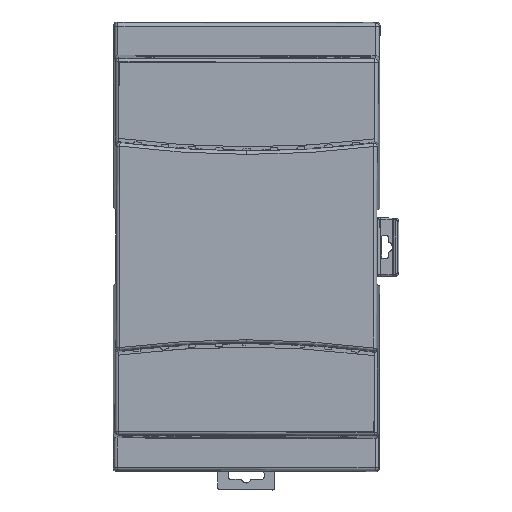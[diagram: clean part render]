
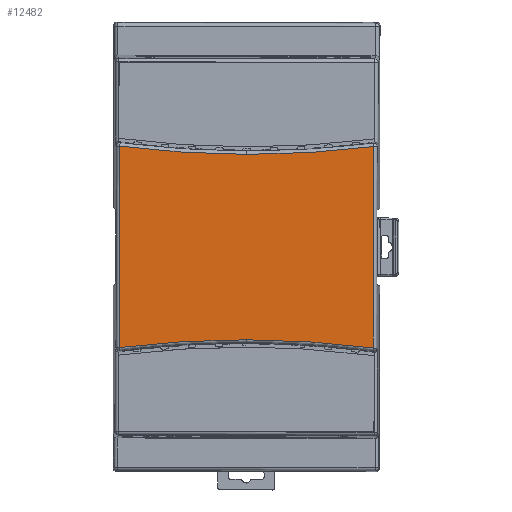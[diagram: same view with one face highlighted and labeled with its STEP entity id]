
A CAD part, top view. The second image highlights one B-rep face of the part: STEP entity #12482.
In plain terms, the highlighted planar face has unit normal (0, -0.003, 1).
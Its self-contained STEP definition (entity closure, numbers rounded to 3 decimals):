
#11570 = CARTESIAN_POINT ( 'NONE',  ( -266.544, -525.392, 214.092 ) ) ;
#11573 = CARTESIAN_POINT ( 'NONE',  ( -228.365, -523.055, 214.103 ) ) ;
#11587 = CARTESIAN_POINT ( 'NONE',  ( -190.195, -525.536, 214.098 ) ) ;
#11635 = CARTESIAN_POINT ( 'NONE',  ( -228.26, -467.33, 214.287 ) ) ;
#11637 = CARTESIAN_POINT ( 'NONE',  ( -266.43, -464.849, 214.291 ) ) ;
#11638 = CARTESIAN_POINT ( 'NONE',  ( -190.082, -464.993, 214.298 ) ) ;
#12482 = ADVANCED_FACE ( 'NONE', ( #38952 ), #33625, .T. ) ;
#12652 = EDGE_CURVE ( 'NONE', #35961, #36012, #39110, .T. ) ;
#12653 = EDGE_CURVE ( 'NONE', #36011, #35944, #39111, .T. ) ;
#15620 = B_SPLINE_CURVE_WITH_KNOTS ( 'NONE', 3,
 ( #18475, #18476, #18477, #18478, #18479, #18480 ),
 .UNSPECIFIED., .F., .F.,
 ( 4, 2, 4 ),
 ( 0., 0.019, 0.038 ),
 .UNSPECIFIED. ) ;
#15627 = B_SPLINE_CURVE_WITH_KNOTS ( 'NONE', 3,
 ( #18522, #18523, #18524, #18525, #18526, #18527 ),
 .UNSPECIFIED., .F., .F.,
 ( 4, 2, 4 ),
 ( 0., 0.019, 0.038 ),
 .UNSPECIFIED. ) ;
#15641 = B_SPLINE_CURVE_WITH_KNOTS ( 'NONE', 3,
 ( #18769, #18770, #18771, #18772, #18773, #18774 ),
 .UNSPECIFIED., .F., .F.,
 ( 4, 2, 4 ),
 ( 0., 0.019, 0.038 ),
 .UNSPECIFIED. ) ;
#15642 = B_SPLINE_CURVE_WITH_KNOTS ( 'NONE', 3,
 ( #18775, #18776, #18777, #18778, #18779, #18780 ),
 .UNSPECIFIED., .F., .F.,
 ( 4, 2, 4 ),
 ( 0., 0.019, 0.038 ),
 .UNSPECIFIED. ) ;
#18475 = CARTESIAN_POINT ( 'NONE',  ( -266.544, -525.392, 214.092 ) ) ;
#18476 = CARTESIAN_POINT ( 'NONE',  ( -260.212, -524.602, 214.095 ) ) ;
#18477 = CARTESIAN_POINT ( 'NONE',  ( -253.86, -524.012, 214.097 ) ) ;
#18478 = CARTESIAN_POINT ( 'NONE',  ( -241.123, -523.232, 214.101 ) ) ;
#18479 = CARTESIAN_POINT ( 'NONE',  ( -234.746, -523.043, 214.102 ) ) ;
#18480 = CARTESIAN_POINT ( 'NONE',  ( -228.365, -523.055, 214.103 ) ) ;
#18522 = CARTESIAN_POINT ( 'NONE',  ( -228.365, -523.055, 214.103 ) ) ;
#18523 = CARTESIAN_POINT ( 'NONE',  ( -221.984, -523.067, 214.103 ) ) ;
#18524 = CARTESIAN_POINT ( 'NONE',  ( -215.608, -523.281, 214.103 ) ) ;
#18525 = CARTESIAN_POINT ( 'NONE',  ( -202.873, -524.108, 214.102 ) ) ;
#18526 = CARTESIAN_POINT ( 'NONE',  ( -196.525, -524.722, 214.1 ) ) ;
#18527 = CARTESIAN_POINT ( 'NONE',  ( -190.195, -525.536, 214.098 ) ) ;
#18769 = CARTESIAN_POINT ( 'NONE',  ( -228.26, -467.33, 214.287 ) ) ;
#18770 = CARTESIAN_POINT ( 'NONE',  ( -234.642, -467.318, 214.286 ) ) ;
#18771 = CARTESIAN_POINT ( 'NONE',  ( -241.017, -467.105, 214.286 ) ) ;
#18772 = CARTESIAN_POINT ( 'NONE',  ( -253.752, -466.277, 214.288 ) ) ;
#18773 = CARTESIAN_POINT ( 'NONE',  ( -260.101, -465.663, 214.289 ) ) ;
#18774 = CARTESIAN_POINT ( 'NONE',  ( -266.43, -464.849, 214.291 ) ) ;
#18775 = CARTESIAN_POINT ( 'NONE',  ( -190.082, -464.993, 214.298 ) ) ;
#18776 = CARTESIAN_POINT ( 'NONE',  ( -196.414, -465.783, 214.295 ) ) ;
#18777 = CARTESIAN_POINT ( 'NONE',  ( -202.765, -466.373, 214.292 ) ) ;
#18778 = CARTESIAN_POINT ( 'NONE',  ( -215.503, -467.153, 214.288 ) ) ;
#18779 = CARTESIAN_POINT ( 'NONE',  ( -221.879, -467.342, 214.287 ) ) ;
#18780 = CARTESIAN_POINT ( 'NONE',  ( -228.26, -467.33, 214.287 ) ) ;
#30068 = EDGE_LOOP ( 'NONE', ( #41521, #41519, #41520, #41505, #41506, #41500 ) ) ;
#33625 = PLANE ( 'NONE',  #40027 ) ;
#33627 = CARTESIAN_POINT ( 'NONE',  ( -188.186, -427.768, 214.421 ) ) ;
#33629 = DIRECTION ( 'NONE',  ( 0., -0.003, 1. ) ) ;
#33631 = DIRECTION ( 'NONE',  ( -1., 0.002, 0. ) ) ;
#35944 = VERTEX_POINT ( 'NONE', #11570 ) ;
#35947 = VERTEX_POINT ( 'NONE', #11573 ) ;
#35961 = VERTEX_POINT ( 'NONE', #11587 ) ;
#36009 = VERTEX_POINT ( 'NONE', #11635 ) ;
#36011 = VERTEX_POINT ( 'NONE', #11637 ) ;
#36012 = VERTEX_POINT ( 'NONE', #11638 ) ;
#38633 = EDGE_CURVE ( 'NONE', #35944, #35947, #15620, .T. ) ;
#38648 = EDGE_CURVE ( 'NONE', #35947, #35961, #15627, .T. ) ;
#38736 = EDGE_CURVE ( 'NONE', #36009, #36011, #15641, .T. ) ;
#38737 = EDGE_CURVE ( 'NONE', #36012, #36009, #15642, .T. ) ;
#38952 = FACE_OUTER_BOUND ( 'NONE', #30068, .T. ) ;
#39110 = LINE ( 'NONE', #40566, #40169 ) ;
#39111 = LINE ( 'NONE', #40568, #40171 ) ;
#40027 = AXIS2_PLACEMENT_3D ( 'NONE', #33627, #33629, #33631 ) ;
#40169 = VECTOR ( 'NONE', #40567, 1000. ) ;
#40171 = VECTOR ( 'NONE', #40569, 1000. ) ;
#40566 = CARTESIAN_POINT ( 'NONE',  ( -190.079, -463.876, 214.301 ) ) ;
#40567 = DIRECTION ( 'NONE',  ( 0.002, 1., 0.003 ) ) ;
#40568 = CARTESIAN_POINT ( 'NONE',  ( -266.546, -526.509, 214.088 ) ) ;
#40569 = DIRECTION ( 'NONE',  ( -0.002, -1., -0.003 ) ) ;
#41500 = ORIENTED_EDGE ( 'NONE', *, *, #38633, .T. ) ;
#41505 = ORIENTED_EDGE ( 'NONE', *, *, #38736, .T. ) ;
#41506 = ORIENTED_EDGE ( 'NONE', *, *, #12653, .T. ) ;
#41519 = ORIENTED_EDGE ( 'NONE', *, *, #12652, .T. ) ;
#41520 = ORIENTED_EDGE ( 'NONE', *, *, #38737, .T. ) ;
#41521 = ORIENTED_EDGE ( 'NONE', *, *, #38648, .T. ) ;
